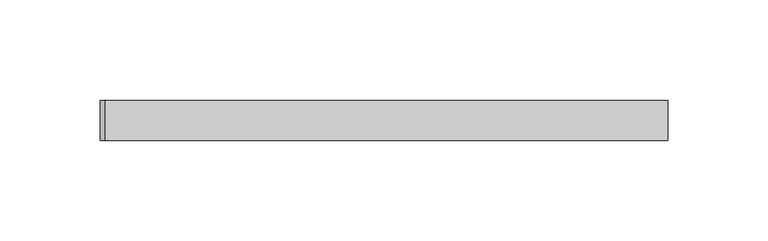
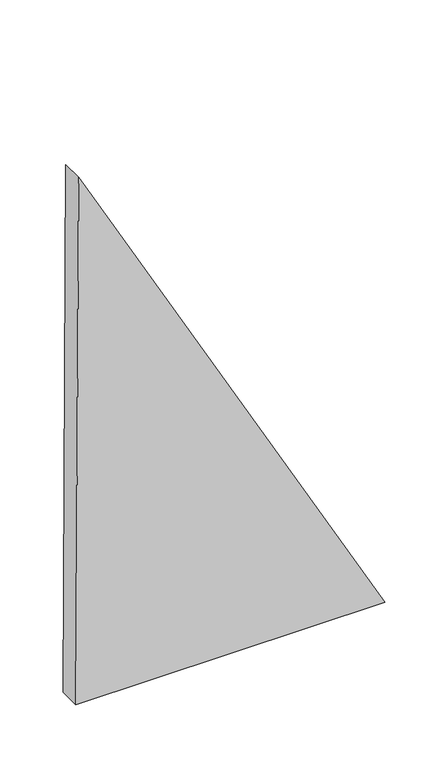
"""IFC4 building model written with IfcOpenShell, lengths in millimetres: plate geometry, 空系统嵌板 : 空."""

from ifc_helpers import new_model, si_unit, frame, origin, place, context, project, spatial, polyline, outline, extrude, source, transform, mapped, element, save


def plate_f94965ac(model_context):
    return source(origin(), model_context, "Body", "SweptSolid", [
        extrude(outline(polyline([(0.0, -141.2328527), (0.0, 141.2328527), (508.5138515, -138.764452), (0.0, -141.2328527)])), frame((0.0, -10.0, 0.0), z_axis=(0.0, 1.0, 0.0), x_axis=(0.0, 0.0, 1.0)), (0.0, 0.0, 1.0), 20.0),
    ])


if __name__ == "__main__":
    model = new_model("IFC4")
    model_context = context("Model", 3, world=origin())
    ifc_project = project(units=[si_unit("LENGTHUNIT", "METRE", prefix="MILLI")], contexts=[model_context])
    site = spatial("IfcSite", under=ifc_project)
    building = spatial("IfcBuilding", under=site)
    placement = place(None, origin())
    plate_shape = plate_f94965ac(model_context)
    element("IfcPlate", 1, ObjectType="空系统嵌板 : 空", at=placement, inside=building, context=model_context, shape_type="MappedRepresentation", body=[
        mapped(plate_shape, transform((0.0, 0.0, 0.0), x_axis=(1.0, 0.0, 0.0), y_axis=(0.0, 1.0, 0.0), z_axis=(0.0, 0.0, 1.0))),
    ])
    save(model, "model.ifc")
